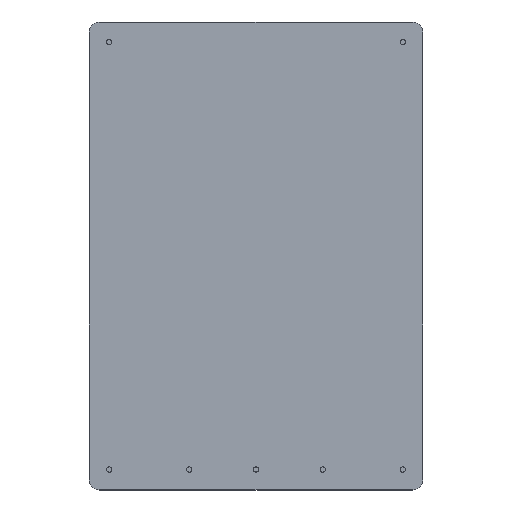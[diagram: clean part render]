
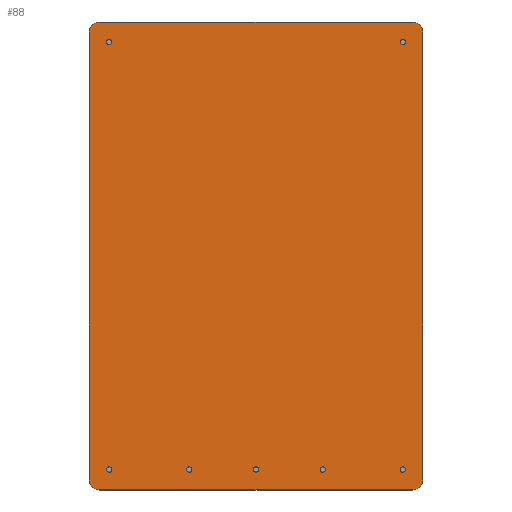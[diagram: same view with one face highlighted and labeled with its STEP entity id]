
A CAD part, top view. The second image highlights one B-rep face of the part: STEP entity #88.
In plain terms, the highlighted planar face has unit normal (0, 0, 1).
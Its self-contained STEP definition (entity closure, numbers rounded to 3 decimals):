
#80=FACE_BOUND('',#166,.F.);
#81=FACE_BOUND('',#167,.F.);
#82=FACE_BOUND('',#168,.F.);
#83=FACE_BOUND('',#169,.F.);
#84=FACE_BOUND('',#170,.F.);
#85=FACE_BOUND('',#171,.F.);
#86=FACE_BOUND('',#172,.F.);
#88=ADVANCED_FACE('',(#80,#81,#82,#83,#84,#85,#86,#127),#368,.T.);
#127=FACE_OUTER_BOUND('',#173,.F.);
#166=EDGE_LOOP('',(#215,#216));
#167=EDGE_LOOP('',(#217,#218));
#168=EDGE_LOOP('',(#219,#220));
#169=EDGE_LOOP('',(#221,#222));
#170=EDGE_LOOP('',(#223,#224));
#171=EDGE_LOOP('',(#225,#226));
#172=EDGE_LOOP('',(#227,#228));
#173=EDGE_LOOP('',(#229,#230,#231,#232,#233,#234,#235,#236));
#215=ORIENTED_EDGE('',*,*,#451,.T.);
#216=ORIENTED_EDGE('',*,*,#450,.T.);
#217=ORIENTED_EDGE('',*,*,#455,.T.);
#218=ORIENTED_EDGE('',*,*,#454,.T.);
#219=ORIENTED_EDGE('',*,*,#459,.T.);
#220=ORIENTED_EDGE('',*,*,#458,.T.);
#221=ORIENTED_EDGE('',*,*,#461,.T.);
#222=ORIENTED_EDGE('',*,*,#460,.T.);
#223=ORIENTED_EDGE('',*,*,#457,.T.);
#224=ORIENTED_EDGE('',*,*,#456,.T.);
#225=ORIENTED_EDGE('',*,*,#453,.T.);
#226=ORIENTED_EDGE('',*,*,#452,.T.);
#227=ORIENTED_EDGE('',*,*,#449,.T.);
#228=ORIENTED_EDGE('',*,*,#448,.T.);
#229=ORIENTED_EDGE('',*,*,#482,.F.);
#230=ORIENTED_EDGE('',*,*,#470,.F.);
#231=ORIENTED_EDGE('',*,*,#483,.F.);
#232=ORIENTED_EDGE('',*,*,#479,.F.);
#233=ORIENTED_EDGE('',*,*,#484,.F.);
#234=ORIENTED_EDGE('',*,*,#476,.F.);
#235=ORIENTED_EDGE('',*,*,#485,.F.);
#236=ORIENTED_EDGE('',*,*,#473,.F.);
#368=PLANE('',#665);
#396=LINE('',#991,#430);
#397=LINE('',#992,#431);
#398=LINE('',#993,#432);
#399=LINE('',#994,#433);
#430=VECTOR('',#758,85.);
#431=VECTOR('',#759,59.5);
#432=VECTOR('',#760,85.);
#433=VECTOR('',#761,59.5);
#448=EDGE_CURVE('',#617,#616,#526,.T.);
#449=EDGE_CURVE('',#616,#617,#527,.T.);
#450=EDGE_CURVE('',#615,#614,#528,.T.);
#451=EDGE_CURVE('',#614,#615,#529,.T.);
#452=EDGE_CURVE('',#613,#612,#530,.T.);
#453=EDGE_CURVE('',#612,#613,#531,.T.);
#454=EDGE_CURVE('',#611,#610,#532,.T.);
#455=EDGE_CURVE('',#610,#611,#533,.T.);
#456=EDGE_CURVE('',#609,#608,#534,.T.);
#457=EDGE_CURVE('',#608,#609,#535,.T.);
#458=EDGE_CURVE('',#607,#606,#536,.T.);
#459=EDGE_CURVE('',#606,#607,#537,.T.);
#460=EDGE_CURVE('',#605,#604,#538,.T.);
#461=EDGE_CURVE('',#604,#605,#539,.T.);
#470=EDGE_CURVE('',#591,#590,#540,.T.);
#473=EDGE_CURVE('',#589,#588,#541,.T.);
#476=EDGE_CURVE('',#587,#586,#542,.T.);
#479=EDGE_CURVE('',#585,#584,#543,.T.);
#482=EDGE_CURVE('',#590,#589,#396,.T.);
#483=EDGE_CURVE('',#584,#591,#397,.T.);
#484=EDGE_CURVE('',#586,#585,#398,.T.);
#485=EDGE_CURVE('',#588,#587,#399,.T.);
#526=CIRCLE('',#620,0.5);
#527=CIRCLE('',#621,0.5);
#528=CIRCLE('',#622,0.5);
#529=CIRCLE('',#623,0.5);
#530=CIRCLE('',#624,0.5);
#531=CIRCLE('',#625,0.5);
#532=CIRCLE('',#626,0.5);
#533=CIRCLE('',#627,0.5);
#534=CIRCLE('',#628,0.5);
#535=CIRCLE('',#629,0.5);
#536=CIRCLE('',#630,0.5);
#537=CIRCLE('',#631,0.5);
#538=CIRCLE('',#632,0.5);
#539=CIRCLE('',#633,0.5);
#540=CIRCLE('',#634,2.);
#541=CIRCLE('',#635,2.);
#542=CIRCLE('',#636,2.);
#543=CIRCLE('',#637,2.);
#584=VERTEX_POINT('',#923);
#585=VERTEX_POINT('',#924);
#586=VERTEX_POINT('',#925);
#587=VERTEX_POINT('',#926);
#588=VERTEX_POINT('',#927);
#589=VERTEX_POINT('',#928);
#590=VERTEX_POINT('',#929);
#591=VERTEX_POINT('',#930);
#604=VERTEX_POINT('',#943);
#605=VERTEX_POINT('',#944);
#606=VERTEX_POINT('',#945);
#607=VERTEX_POINT('',#946);
#608=VERTEX_POINT('',#947);
#609=VERTEX_POINT('',#948);
#610=VERTEX_POINT('',#949);
#611=VERTEX_POINT('',#950);
#612=VERTEX_POINT('',#951);
#613=VERTEX_POINT('',#952);
#614=VERTEX_POINT('',#953);
#615=VERTEX_POINT('',#954);
#616=VERTEX_POINT('',#955);
#617=VERTEX_POINT('',#956);
#620=AXIS2_PLACEMENT_3D('',#957,#706,#707);
#621=AXIS2_PLACEMENT_3D('',#958,#708,#709);
#622=AXIS2_PLACEMENT_3D('',#959,#710,#711);
#623=AXIS2_PLACEMENT_3D('',#960,#712,#713);
#624=AXIS2_PLACEMENT_3D('',#961,#714,#715);
#625=AXIS2_PLACEMENT_3D('',#962,#716,#717);
#626=AXIS2_PLACEMENT_3D('',#963,#718,#719);
#627=AXIS2_PLACEMENT_3D('',#964,#720,#721);
#628=AXIS2_PLACEMENT_3D('',#965,#722,#723);
#629=AXIS2_PLACEMENT_3D('',#966,#724,#725);
#630=AXIS2_PLACEMENT_3D('',#967,#726,#727);
#631=AXIS2_PLACEMENT_3D('',#968,#728,#729);
#632=AXIS2_PLACEMENT_3D('',#969,#730,#731);
#633=AXIS2_PLACEMENT_3D('',#970,#732,#733);
#634=AXIS2_PLACEMENT_3D('',#979,#742,#743);
#635=AXIS2_PLACEMENT_3D('',#982,#746,#747);
#636=AXIS2_PLACEMENT_3D('',#985,#750,#751);
#637=AXIS2_PLACEMENT_3D('',#988,#754,#755);
#665=AXIS2_PLACEMENT_3D('',#1036,#830,#831);
#706=DIRECTION('',(0.,0.,1.));
#707=DIRECTION('',(0.,-1.,0.));
#708=DIRECTION('',(0.,0.,1.));
#709=DIRECTION('',(0.,1.,0.));
#710=DIRECTION('',(0.,0.,1.));
#711=DIRECTION('',(0.,-1.,0.));
#712=DIRECTION('',(0.,0.,1.));
#713=DIRECTION('',(0.,1.,0.));
#714=DIRECTION('',(0.,0.,1.));
#715=DIRECTION('',(0.,-1.,0.));
#716=DIRECTION('',(0.,0.,1.));
#717=DIRECTION('',(0.,1.,0.));
#718=DIRECTION('',(0.,0.,1.));
#719=DIRECTION('',(0.,-1.,0.));
#720=DIRECTION('',(0.,0.,1.));
#721=DIRECTION('',(0.,1.,0.));
#722=DIRECTION('',(0.,0.,1.));
#723=DIRECTION('',(0.,-1.,0.));
#724=DIRECTION('',(0.,0.,1.));
#725=DIRECTION('',(0.,1.,0.));
#726=DIRECTION('',(0.,0.,1.));
#727=DIRECTION('',(0.,-1.,0.));
#728=DIRECTION('',(0.,0.,1.));
#729=DIRECTION('',(0.,1.,0.));
#730=DIRECTION('',(0.,0.,1.));
#731=DIRECTION('',(0.,-1.,0.));
#732=DIRECTION('',(0.,0.,1.));
#733=DIRECTION('',(0.,1.,0.));
#742=DIRECTION('',(0.,0.,1.));
#743=DIRECTION('',(0.,1.,0.));
#746=DIRECTION('',(0.,0.,1.));
#747=DIRECTION('',(-1.,0.,0.));
#750=DIRECTION('',(0.,0.,1.));
#751=DIRECTION('',(0.,-1.,0.));
#754=DIRECTION('',(0.,0.,1.));
#755=DIRECTION('',(1.,0.,0.));
#758=DIRECTION('',(0.,-1.,0.));
#759=DIRECTION('',(-1.,0.,0.));
#760=DIRECTION('',(0.,1.,0.));
#761=DIRECTION('',(1.,0.,0.));
#830=DIRECTION('',(0.,0.,1.));
#831=DIRECTION('',(-1.,0.,0.));
#923=CARTESIAN_POINT('',(-17.,701.225,-10.5));
#924=CARTESIAN_POINT('',(-15.,699.225,-10.5));
#925=CARTESIAN_POINT('',(-15.,614.225,-10.5));
#926=CARTESIAN_POINT('',(-17.,612.225,-10.5));
#927=CARTESIAN_POINT('',(-76.5,612.225,-10.5));
#928=CARTESIAN_POINT('',(-78.5,614.225,-10.5));
#929=CARTESIAN_POINT('',(-78.5,699.225,-10.5));
#930=CARTESIAN_POINT('',(-76.5,701.225,-10.5));
#943=CARTESIAN_POINT('',(-18.81,697.875,-10.5));
#944=CARTESIAN_POINT('',(-18.81,696.875,-10.5));
#945=CARTESIAN_POINT('',(-74.69,697.875,-10.5));
#946=CARTESIAN_POINT('',(-74.69,696.875,-10.5));
#947=CARTESIAN_POINT('',(-18.81,616.575,-10.5));
#948=CARTESIAN_POINT('',(-18.81,615.575,-10.5));
#949=CARTESIAN_POINT('',(-34.05,616.575,-10.5));
#950=CARTESIAN_POINT('',(-34.05,615.575,-10.5));
#951=CARTESIAN_POINT('',(-46.75,616.575,-10.5));
#952=CARTESIAN_POINT('',(-46.75,615.575,-10.5));
#953=CARTESIAN_POINT('',(-59.45,616.575,-10.5));
#954=CARTESIAN_POINT('',(-59.45,615.575,-10.5));
#955=CARTESIAN_POINT('',(-74.69,616.575,-10.5));
#956=CARTESIAN_POINT('',(-74.69,615.575,-10.5));
#957=CARTESIAN_POINT('',(-74.69,616.075,-10.5));
#958=CARTESIAN_POINT('',(-74.69,616.075,-10.5));
#959=CARTESIAN_POINT('',(-59.45,616.075,-10.5));
#960=CARTESIAN_POINT('',(-59.45,616.075,-10.5));
#961=CARTESIAN_POINT('',(-46.75,616.075,-10.5));
#962=CARTESIAN_POINT('',(-46.75,616.075,-10.5));
#963=CARTESIAN_POINT('',(-34.05,616.075,-10.5));
#964=CARTESIAN_POINT('',(-34.05,616.075,-10.5));
#965=CARTESIAN_POINT('',(-18.81,616.075,-10.5));
#966=CARTESIAN_POINT('',(-18.81,616.075,-10.5));
#967=CARTESIAN_POINT('',(-74.69,697.375,-10.5));
#968=CARTESIAN_POINT('',(-74.69,697.375,-10.5));
#969=CARTESIAN_POINT('',(-18.81,697.375,-10.5));
#970=CARTESIAN_POINT('',(-18.81,697.375,-10.5));
#979=CARTESIAN_POINT('',(-76.5,699.225,-10.5));
#982=CARTESIAN_POINT('',(-76.5,614.225,-10.5));
#985=CARTESIAN_POINT('',(-17.,614.225,-10.5));
#988=CARTESIAN_POINT('',(-17.,699.225,-10.5));
#991=CARTESIAN_POINT('',(-78.5,699.225,-10.5));
#992=CARTESIAN_POINT('',(-17.,701.225,-10.5));
#993=CARTESIAN_POINT('',(-15.,614.225,-10.5));
#994=CARTESIAN_POINT('',(-76.5,612.225,-10.5));
#1036=CARTESIAN_POINT('',(-14.11,702.115,-10.5));
